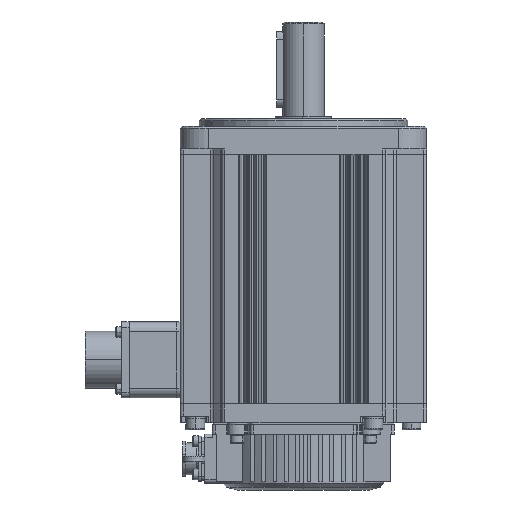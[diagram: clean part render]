
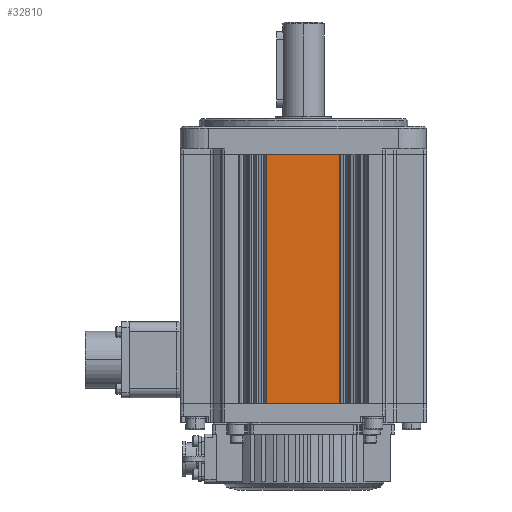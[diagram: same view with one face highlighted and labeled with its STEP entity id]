
A CAD part, front view. The second image highlights one B-rep face of the part: STEP entity #32810.
In plain terms, the highlighted planar face has unit normal (0, -1, 0).
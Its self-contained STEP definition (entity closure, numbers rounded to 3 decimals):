
#1105 = LINE ( 'NONE', #59979, #26209 ) ;
#1619 = EDGE_CURVE ( 'NONE', #3760, #16498, #1105, .T. ) ;
#2214 = CARTESIAN_POINT ( 'NONE',  ( 19.307, -65., -65.75 ) ) ;
#3160 = CARTESIAN_POINT ( 'NONE',  ( 19.307, -65., 65.75 ) ) ;
#3586 = ORIENTED_EDGE ( 'NONE', *, *, #23488, .T. ) ;
#3760 = VERTEX_POINT ( 'NONE', #53749 ) ;
#5038 = CARTESIAN_POINT ( 'NONE',  ( 0., -65., 65.75 ) ) ;
#5054 = EDGE_CURVE ( 'NONE', #16498, #43815, #17534, .T. ) ;
#5070 = FACE_OUTER_BOUND ( 'NONE', #58068, .T. ) ;
#8926 = LINE ( 'NONE', #5038, #21488 ) ;
#8930 = CARTESIAN_POINT ( 'NONE',  ( 0., -65., -65.75 ) ) ;
#9797 = CARTESIAN_POINT ( 'NONE',  ( -19.307, -65., -65.75 ) ) ;
#11658 = VECTOR ( 'NONE', #54258, 1000. ) ;
#13792 = VERTEX_POINT ( 'NONE', #3160 ) ;
#14536 = DIRECTION ( 'NONE',  ( 0., 0., 1. ) ) ;
#14630 = LINE ( 'NONE', #2214, #11658 ) ;
#16498 = VERTEX_POINT ( 'NONE', #42150 ) ;
#17413 = DIRECTION ( 'NONE',  ( -1., 0., 0. ) ) ;
#17534 = LINE ( 'NONE', #9797, #41168 ) ;
#18441 = DIRECTION ( 'NONE',  ( 0., 1., 0. ) ) ;
#21488 = VECTOR ( 'NONE', #33315, 1000. ) ;
#22984 = PLANE ( 'NONE',  #55234 ) ;
#23488 = EDGE_CURVE ( 'NONE', #13792, #43815, #8926, .T. ) ;
#24488 = ORIENTED_EDGE ( 'NONE', *, *, #1619, .F. ) ;
#26209 = VECTOR ( 'NONE', #17413, 1000. ) ;
#27188 = CARTESIAN_POINT ( 'NONE',  ( -19.307, -65., 65.75 ) ) ;
#32810 = ADVANCED_FACE ( 'NONE', ( #5070 ), #22984, .F. ) ;
#33315 = DIRECTION ( 'NONE',  ( -1., 0., 0. ) ) ;
#37525 = ORIENTED_EDGE ( 'NONE', *, *, #39657, .T. ) ;
#39657 = EDGE_CURVE ( 'NONE', #3760, #13792, #14630, .T. ) ;
#41168 = VECTOR ( 'NONE', #14536, 1000. ) ;
#42150 = CARTESIAN_POINT ( 'NONE',  ( -19.307, -65., -65.75 ) ) ;
#43815 = VERTEX_POINT ( 'NONE', #27188 ) ;
#45647 = ORIENTED_EDGE ( 'NONE', *, *, #5054, .F. ) ;
#51478 = DIRECTION ( 'NONE',  ( 0., 0., 1. ) ) ;
#53749 = CARTESIAN_POINT ( 'NONE',  ( 19.307, -65., -65.75 ) ) ;
#54258 = DIRECTION ( 'NONE',  ( 0., 0., 1. ) ) ;
#55234 = AXIS2_PLACEMENT_3D ( 'NONE', #8930, #18441, #51478 ) ;
#58068 = EDGE_LOOP ( 'NONE', ( #3586, #45647, #24488, #37525 ) ) ;
#59979 = CARTESIAN_POINT ( 'NONE',  ( 0., -65., -65.75 ) ) ;
